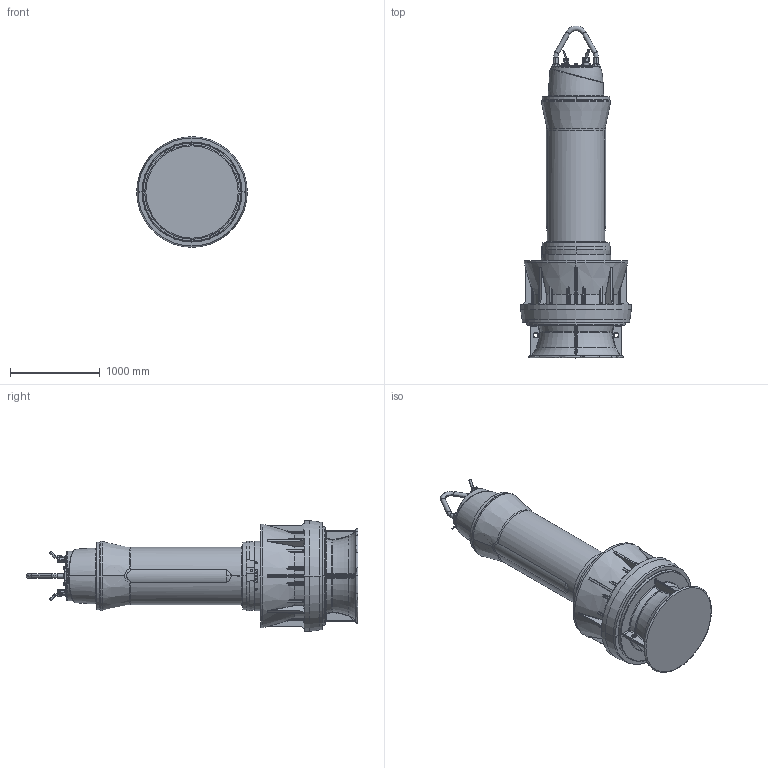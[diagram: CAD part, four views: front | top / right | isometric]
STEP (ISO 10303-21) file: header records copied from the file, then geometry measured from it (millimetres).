
FILE_DESCRIPTION (( 'STEP AP214' ), '1' );
FILE_NAME ('PE7_VUPX1000_STD_E.STEP', '2017-05-04T06:04:06', ( '' ), ( '' ), 'SwSTEP 2.0', 'SolidWorks 2017', '' );
FILE_SCHEMA (( 'AUTOMOTIVE_DESIGN' ));
Length unit declared in the file: millimetre
Products named in the file (1): PE7_VUPX1000_STD_E
Bounding box: 1230 x 3688.59 x 1230 mm (x, y, z)
Volume: 1588430666.3 mm3; surface area: 13848809.9 mm2
Topology: 3 solids, 23 shells, 2794 faces, 6923 edges, 4143 vertices
Faces by surface type: plane 893, cylinder 724, bspline 499, torus 349, cone 225, sphere 104
Entity records: 147962 total; most frequent: CARTESIAN_POINT 55443, ORIENTED_EDGE 13506, DIRECTION 12050, EDGE_CURVE 6753, AXIS2_PLACEMENT_3D 4709, VERTEX_POINT 4132, EDGE_LOOP 2987, UNCERTAINTY_MEASURE_WITH_UNIT 2799
